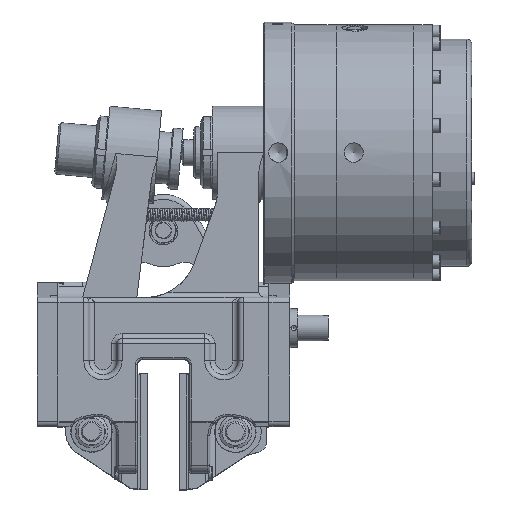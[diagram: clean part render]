
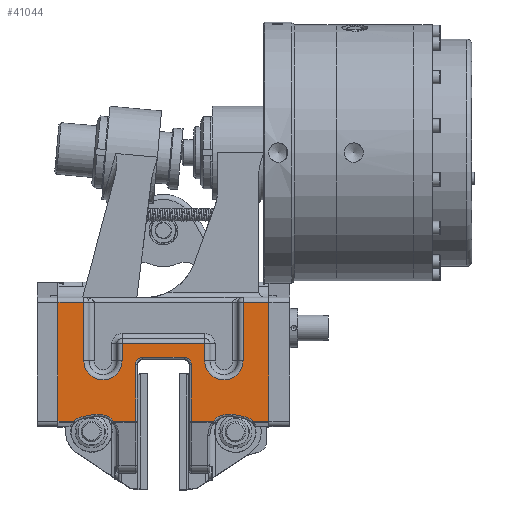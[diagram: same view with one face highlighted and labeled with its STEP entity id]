
A CAD part, top view. The second image highlights one B-rep face of the part: STEP entity #41044.
In plain terms, the highlighted planar face has unit normal (0, 0, 1).
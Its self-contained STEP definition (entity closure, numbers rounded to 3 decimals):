
#2751=PLANE('',#45391);
#4795=FACE_OUTER_BOUND('',#7260,.T.);
#7260=EDGE_LOOP('',(#35525,#35526,#35527,#35528,#35529,#35530,#35531,#35532,
#35533,#35534,#35535,#35536,#35537,#35538,#35539,#35540,#35541,#35542,#35543,
#35544,#35545,#35546,#35547,#35548,#35549,#35550));
#9689=LINE('',#78338,#12334);
#9841=LINE('',#78916,#12486);
#10082=LINE('',#79968,#12727);
#10084=LINE('',#79985,#12729);
#10087=LINE('',#79997,#12732);
#10089=LINE('',#80007,#12734);
#10091=LINE('',#80013,#12736);
#10092=LINE('',#80016,#12737);
#10094=LINE('',#80027,#12739);
#10124=LINE('',#80346,#12769);
#10125=LINE('',#80354,#12770);
#10126=LINE('',#80362,#12771);
#10132=LINE('',#80392,#12777);
#10133=LINE('',#80400,#12778);
#10137=LINE('',#80465,#12782);
#10144=LINE('',#80546,#12789);
#10145=LINE('',#80552,#12790);
#10146=LINE('',#80554,#12791);
#12334=VECTOR('',#54553,10.);
#12486=VECTOR('',#55101,10.);
#12727=VECTOR('',#55942,5.);
#12729=VECTOR('',#55962,10.);
#12732=VECTOR('',#55977,10.);
#12734=VECTOR('',#55989,10.);
#12736=VECTOR('',#55995,5.);
#12737=VECTOR('',#55998,10.);
#12739=VECTOR('',#56012,10.);
#12769=VECTOR('',#56154,10.);
#12770=VECTOR('',#56165,10.);
#12771=VECTOR('',#56176,10.);
#12777=VECTOR('',#56208,10.);
#12778=VECTOR('',#56211,10.);
#12782=VECTOR('',#56249,10.);
#12789=VECTOR('',#56280,10.);
#12790=VECTOR('',#56285,10.);
#12791=VECTOR('',#56288,10.);
#15208=CIRCLE('',#45264,18.5);
#15216=CIRCLE('',#45278,18.5);
#15248=CIRCLE('',#45340,7.);
#15251=CIRCLE('',#45345,7.);
#15266=CIRCLE('',#45376,20.);
#15269=CIRCLE('',#45381,18.);
#15273=CIRCLE('',#45392,18.);
#15274=CIRCLE('',#45393,20.);
#18538=VERTEX_POINT('',#78331);
#18540=VERTEX_POINT('',#78337);
#18725=VERTEX_POINT('',#78911);
#18726=VERTEX_POINT('',#78915);
#19005=VERTEX_POINT('',#79967);
#19007=VERTEX_POINT('',#79973);
#19011=VERTEX_POINT('',#79984);
#19013=VERTEX_POINT('',#79990);
#19015=VERTEX_POINT('',#79999);
#19019=VERTEX_POINT('',#80011);
#19020=VERTEX_POINT('',#80015);
#19022=VERTEX_POINT('',#80021);
#19052=VERTEX_POINT('',#80341);
#19053=VERTEX_POINT('',#80345);
#19054=VERTEX_POINT('',#80349);
#19055=VERTEX_POINT('',#80353);
#19056=VERTEX_POINT('',#80357);
#19057=VERTEX_POINT('',#80361);
#19064=VERTEX_POINT('',#80387);
#19065=VERTEX_POINT('',#80394);
#19069=VERTEX_POINT('',#80459);
#19070=VERTEX_POINT('',#80463);
#19076=VERTEX_POINT('',#80541);
#19077=VERTEX_POINT('',#80548);
#19078=VERTEX_POINT('',#80549);
#19079=VERTEX_POINT('',#80551);
#23822=EDGE_CURVE('',#18540,#18538,#9689,.T.);
#24093=EDGE_CURVE('',#18725,#18726,#9841,.T.);
#24531=EDGE_CURVE('',#18538,#19005,#10082,.T.);
#24539=EDGE_CURVE('',#19005,#19011,#10084,.T.);
#24542=EDGE_CURVE('',#19011,#19013,#15208,.T.);
#24546=EDGE_CURVE('',#19013,#19007,#10087,.T.);
#24551=EDGE_CURVE('',#19007,#19015,#10089,.T.);
#24554=EDGE_CURVE('',#19019,#18725,#10091,.T.);
#24555=EDGE_CURVE('',#19015,#19020,#10092,.T.);
#24558=EDGE_CURVE('',#19020,#19022,#15216,.T.);
#24561=EDGE_CURVE('',#19022,#19019,#10094,.T.);
#24625=EDGE_CURVE('',#19052,#19053,#10124,.T.);
#24627=EDGE_CURVE('',#19053,#19054,#15248,.T.);
#24629=EDGE_CURVE('',#19054,#19055,#10125,.T.);
#24631=EDGE_CURVE('',#19055,#19056,#15251,.T.);
#24633=EDGE_CURVE('',#19056,#19057,#10126,.T.);
#24647=EDGE_CURVE('',#18726,#19064,#10132,.T.);
#24649=EDGE_CURVE('',#19065,#19052,#10133,.T.);
#24661=EDGE_CURVE('',#19069,#19065,#15266,.T.);
#24663=EDGE_CURVE('',#19070,#19069,#10137,.T.);
#24665=EDGE_CURVE('',#19064,#19070,#15269,.T.);
#24678=EDGE_CURVE('',#19057,#19076,#10144,.T.);
#24679=EDGE_CURVE('',#19077,#19078,#15273,.T.);
#24680=EDGE_CURVE('',#19079,#19077,#10145,.T.);
#24681=EDGE_CURVE('',#19076,#19079,#15274,.T.);
#24682=EDGE_CURVE('',#19078,#18540,#10146,.T.);
#35525=ORIENTED_EDGE('',*,*,#24679,.F.);
#35526=ORIENTED_EDGE('',*,*,#24680,.F.);
#35527=ORIENTED_EDGE('',*,*,#24681,.F.);
#35528=ORIENTED_EDGE('',*,*,#24678,.F.);
#35529=ORIENTED_EDGE('',*,*,#24633,.F.);
#35530=ORIENTED_EDGE('',*,*,#24631,.F.);
#35531=ORIENTED_EDGE('',*,*,#24629,.F.);
#35532=ORIENTED_EDGE('',*,*,#24627,.F.);
#35533=ORIENTED_EDGE('',*,*,#24625,.F.);
#35534=ORIENTED_EDGE('',*,*,#24649,.F.);
#35535=ORIENTED_EDGE('',*,*,#24661,.F.);
#35536=ORIENTED_EDGE('',*,*,#24663,.F.);
#35537=ORIENTED_EDGE('',*,*,#24665,.F.);
#35538=ORIENTED_EDGE('',*,*,#24647,.F.);
#35539=ORIENTED_EDGE('',*,*,#24093,.F.);
#35540=ORIENTED_EDGE('',*,*,#24554,.F.);
#35541=ORIENTED_EDGE('',*,*,#24561,.F.);
#35542=ORIENTED_EDGE('',*,*,#24558,.F.);
#35543=ORIENTED_EDGE('',*,*,#24555,.F.);
#35544=ORIENTED_EDGE('',*,*,#24551,.F.);
#35545=ORIENTED_EDGE('',*,*,#24546,.F.);
#35546=ORIENTED_EDGE('',*,*,#24542,.F.);
#35547=ORIENTED_EDGE('',*,*,#24539,.F.);
#35548=ORIENTED_EDGE('',*,*,#24531,.F.);
#35549=ORIENTED_EDGE('',*,*,#23822,.F.);
#35550=ORIENTED_EDGE('',*,*,#24682,.F.);
#41044=ADVANCED_FACE('',(#4795),#2751,.T.);
#45264=AXIS2_PLACEMENT_3D('',#79991,#55968,#55969);
#45278=AXIS2_PLACEMENT_3D('',#80022,#56004,#56005);
#45340=AXIS2_PLACEMENT_3D('',#80350,#56159,#56160);
#45345=AXIS2_PLACEMENT_3D('',#80358,#56170,#56171);
#45376=AXIS2_PLACEMENT_3D('',#80461,#56243,#56244);
#45381=AXIS2_PLACEMENT_3D('',#80468,#56254,#56255);
#45391=AXIS2_PLACEMENT_3D('',#80547,#56281,#56282);
#45392=AXIS2_PLACEMENT_3D('',#80550,#56283,#56284);
#45393=AXIS2_PLACEMENT_3D('',#80553,#56286,#56287);
#54553=DIRECTION('',(0.,1.,0.));
#55101=DIRECTION('',(0.,-1.,0.));
#55942=DIRECTION('',(1.,0.,0.));
#55962=DIRECTION('',(0.,-1.,0.));
#55968=DIRECTION('center_axis',(0.,0.,
1.));
#55969=DIRECTION('ref_axis',(0.,-1.,0.));
#55977=DIRECTION('',(0.,1.,0.));
#55989=DIRECTION('',(1.,0.,0.));
#55995=DIRECTION('',(1.,0.,0.));
#55998=DIRECTION('',(0.,-1.,0.));
#56004=DIRECTION('center_axis',(0.,0.,
1.));
#56005=DIRECTION('ref_axis',(0.,-1.,0.));
#56012=DIRECTION('',(0.,1.,0.));
#56154=DIRECTION('',(0.,1.,0.));
#56159=DIRECTION('center_axis',(0.,0.,
1.));
#56160=DIRECTION('ref_axis',(0.707,0.707,0.));
#56165=DIRECTION('',(-1.,0.,0.));
#56170=DIRECTION('center_axis',(0.,0.,
1.));
#56171=DIRECTION('ref_axis',(-0.707,0.707,0.));
#56176=DIRECTION('',(0.,-1.,0.));
#56208=DIRECTION('',(-1.,0.,0.));
#56211=DIRECTION('',(-1.,0.,0.));
#56243=DIRECTION('center_axis',(0.,0.,
1.));
#56244=DIRECTION('ref_axis',(-0.29,0.957,0.));
#56249=DIRECTION('',(-0.985,0.174,0.));
#56254=DIRECTION('center_axis',(0.,0.,
1.));
#56255=DIRECTION('ref_axis',(0.388,0.922,0.));
#56280=DIRECTION('',(-1.,0.,0.));
#56281=DIRECTION('center_axis',(0.,0.,
1.));
#56282=DIRECTION('ref_axis',(1.,0.,0.));
#56283=DIRECTION('center_axis',(0.,0.,
1.));
#56284=DIRECTION('ref_axis',(-0.388,0.922,0.));
#56285=DIRECTION('',(-0.985,-0.174,0.));
#56286=DIRECTION('center_axis',(0.,0.,
1.));
#56287=DIRECTION('ref_axis',(0.29,0.957,0.));
#56288=DIRECTION('',(-1.,0.,0.));
#78331=CARTESIAN_POINT('',(-102.,165.,285.));
#78337=CARTESIAN_POINT('',(-102.,50.,285.));
#78338=CARTESIAN_POINT('',(-102.,165.,285.));
#78911=CARTESIAN_POINT('',(102.,165.,285.));
#78915=CARTESIAN_POINT('',(102.,50.,285.));
#78916=CARTESIAN_POINT('',(102.,165.,285.));
#79967=CARTESIAN_POINT('',(-77.,165.,285.));
#79968=CARTESIAN_POINT('',(102.,165.,285.));
#79973=CARTESIAN_POINT('',(-40.,125.,285.));
#79984=CARTESIAN_POINT('',(-77.,108.5,285.));
#79985=CARTESIAN_POINT('',(-77.,99.315,285.));
#79990=CARTESIAN_POINT('',(-40.,108.5,285.));
#79991=CARTESIAN_POINT('Origin',(-58.5,108.5,285.));
#79997=CARTESIAN_POINT('',(-40.,107.565,285.));
#79999=CARTESIAN_POINT('',(40.,125.,285.));
#80007=CARTESIAN_POINT('',(20.,125.,285.));
#80011=CARTESIAN_POINT('',(77.,165.,285.));
#80013=CARTESIAN_POINT('',(0.,165.,285.));
#80015=CARTESIAN_POINT('',(40.,108.5,285.));
#80016=CARTESIAN_POINT('',(40.,99.315,285.));
#80021=CARTESIAN_POINT('',(77.,108.5,285.));
#80022=CARTESIAN_POINT('Origin',(58.5,108.5,285.));
#80027=CARTESIAN_POINT('',(77.,127.565,285.));
#80341=CARTESIAN_POINT('',(27.,50.,285.));
#80345=CARTESIAN_POINT('',(27.,105.,285.));
#80346=CARTESIAN_POINT('',(27.,97.565,285.));
#80349=CARTESIAN_POINT('',(20.,112.,285.));
#80350=CARTESIAN_POINT('Origin',(20.,105.,285.));
#80353=CARTESIAN_POINT('',(-20.,112.,285.));
#80354=CARTESIAN_POINT('',(-10.,112.,285.));
#80357=CARTESIAN_POINT('',(-27.,105.,285.));
#80358=CARTESIAN_POINT('Origin',(-20.,105.,285.));
#80361=CARTESIAN_POINT('',(-27.,50.,285.));
#80362=CARTESIAN_POINT('',(-27.,45.065,285.));
#80387=CARTESIAN_POINT('',(86.95,50.,285.));
#80392=CARTESIAN_POINT('',(-102.,50.,285.));
#80394=CARTESIAN_POINT('',(47.801,50.,285.));
#80400=CARTESIAN_POINT('',(-102.,50.,285.));
#80459=CARTESIAN_POINT('',(66.478,56.695,285.));
#80461=CARTESIAN_POINT('Origin',(63.,37.,285.));
#80463=CARTESIAN_POINT('',(77.63,54.726,285.));
#80465=CARTESIAN_POINT('',(31.381,62.893,285.));
#80468=CARTESIAN_POINT('Origin',(74.5,37.,285.));
#80541=CARTESIAN_POINT('',(-47.801,50.,285.));
#80546=CARTESIAN_POINT('',(-102.,50.,285.));
#80547=CARTESIAN_POINT('Origin',(0.,90.129,
285.));
#80548=CARTESIAN_POINT('',(-77.63,54.726,285.));
#80549=CARTESIAN_POINT('',(-86.95,50.,285.));
#80550=CARTESIAN_POINT('Origin',(-74.5,37.,285.));
#80551=CARTESIAN_POINT('',(-66.478,56.695,285.));
#80552=CARTESIAN_POINT('',(-36.958,61.909,285.));
#80553=CARTESIAN_POINT('Origin',(-63.,37.,285.));
#80554=CARTESIAN_POINT('',(-102.,50.,285.));
